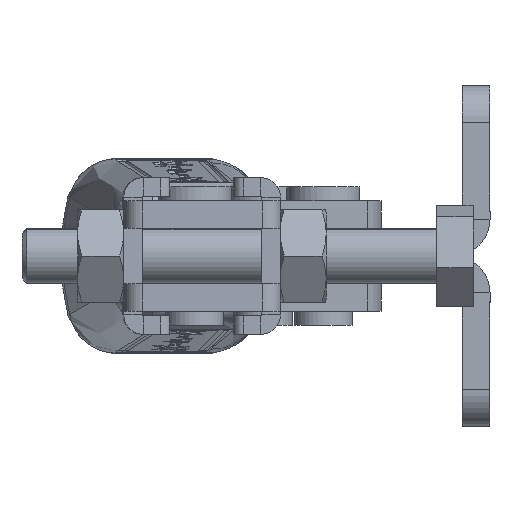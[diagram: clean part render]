
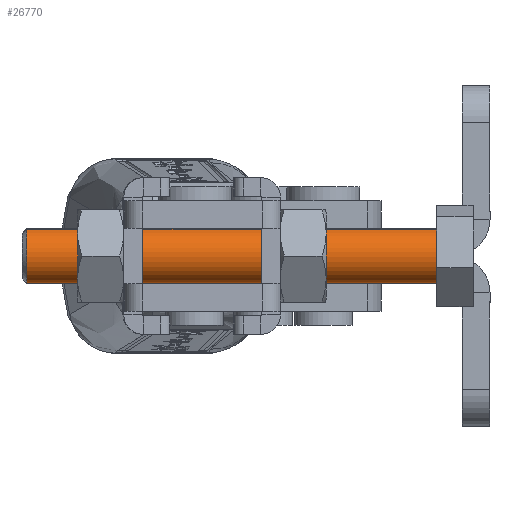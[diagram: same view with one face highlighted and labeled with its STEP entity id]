
A CAD part, left-side view. The second image highlights one B-rep face of the part: STEP entity #26770.
In plain terms, the highlighted cylindrical face has radius 3 mm (diameter 6 mm), a partial arc.
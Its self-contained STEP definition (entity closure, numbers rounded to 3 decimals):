
#1056 = CIRCLE ( 'NONE', #6779, 3. ) ;
#2186 = CARTESIAN_POINT ( 'NONE',  ( 0., 0., 0. ) ) ;
#3639 = ORIENTED_EDGE ( 'NONE', *, *, #16342, .T. ) ;
#3712 = DIRECTION ( 'NONE',  ( 0., 1., 0. ) ) ;
#4182 = CARTESIAN_POINT ( 'NONE',  ( 0., -44.5, 3. ) ) ;
#4717 = DIRECTION ( 'NONE',  ( 0., 0., 1. ) ) ;
#5464 = VERTEX_POINT ( 'NONE', #15605 ) ;
#5645 = CYLINDRICAL_SURFACE ( 'NONE', #7524, 3. ) ;
#6711 = EDGE_LOOP ( 'NONE', ( #27285, #16310, #10821, #3639 ) ) ;
#6779 = AXIS2_PLACEMENT_3D ( 'NONE', #2186, #19918, #4717 ) ;
#7468 = VERTEX_POINT ( 'NONE', #8435 ) ;
#7524 = AXIS2_PLACEMENT_3D ( 'NONE', #16554, #3712, #31727 ) ;
#8435 = CARTESIAN_POINT ( 'NONE',  ( 0., 0., 3. ) ) ;
#9501 = VECTOR ( 'NONE', #24080, 1000. ) ;
#10176 = DIRECTION ( 'NONE',  ( 0., 1., 0. ) ) ;
#10301 = LINE ( 'NONE', #29170, #9501 ) ;
#10821 = ORIENTED_EDGE ( 'NONE', *, *, #22927, .T. ) ;
#10930 = VECTOR ( 'NONE', #25986, 1000. ) ;
#11376 = CIRCLE ( 'NONE', #12830, 3. ) ;
#12830 = AXIS2_PLACEMENT_3D ( 'NONE', #25390, #10176, #27910 ) ;
#14945 = VERTEX_POINT ( 'NONE', #4182 ) ;
#15605 = CARTESIAN_POINT ( 'NONE',  ( 0., -44.5, -3. ) ) ;
#16310 = ORIENTED_EDGE ( 'NONE', *, *, #21862, .T. ) ;
#16342 = EDGE_CURVE ( 'NONE', #7468, #32438, #1056, .T. ) ;
#16554 = CARTESIAN_POINT ( 'NONE',  ( 0., -45., 0. ) ) ;
#19918 = DIRECTION ( 'NONE',  ( 0., -1., 0. ) ) ;
#21862 = EDGE_CURVE ( 'NONE', #5464, #14945, #11376, .T. ) ;
#22927 = EDGE_CURVE ( 'NONE', #14945, #7468, #25229, .T. ) ;
#23734 = CARTESIAN_POINT ( 'NONE',  ( 0., 0., -3. ) ) ;
#24080 = DIRECTION ( 'NONE',  ( 0., 1., 0. ) ) ;
#25229 = LINE ( 'NONE', #31048, #10930 ) ;
#25390 = CARTESIAN_POINT ( 'NONE',  ( 0., -44.5, 0. ) ) ;
#25874 = FACE_OUTER_BOUND ( 'NONE', #6711, .T. ) ;
#25986 = DIRECTION ( 'NONE',  ( 0., 1., 0. ) ) ;
#26770 = ADVANCED_FACE ( 'NONE', ( #25874 ), #5645, .T. ) ;
#27285 = ORIENTED_EDGE ( 'NONE', *, *, #29876, .F. ) ;
#27910 = DIRECTION ( 'NONE',  ( 0., 0., -1. ) ) ;
#29170 = CARTESIAN_POINT ( 'NONE',  ( 0., -45., -3. ) ) ;
#29876 = EDGE_CURVE ( 'NONE', #5464, #32438, #10301, .T. ) ;
#31048 = CARTESIAN_POINT ( 'NONE',  ( 0., -45., 3. ) ) ;
#31727 = DIRECTION ( 'NONE',  ( 0., 0., 1. ) ) ;
#32438 = VERTEX_POINT ( 'NONE', #23734 ) ;
